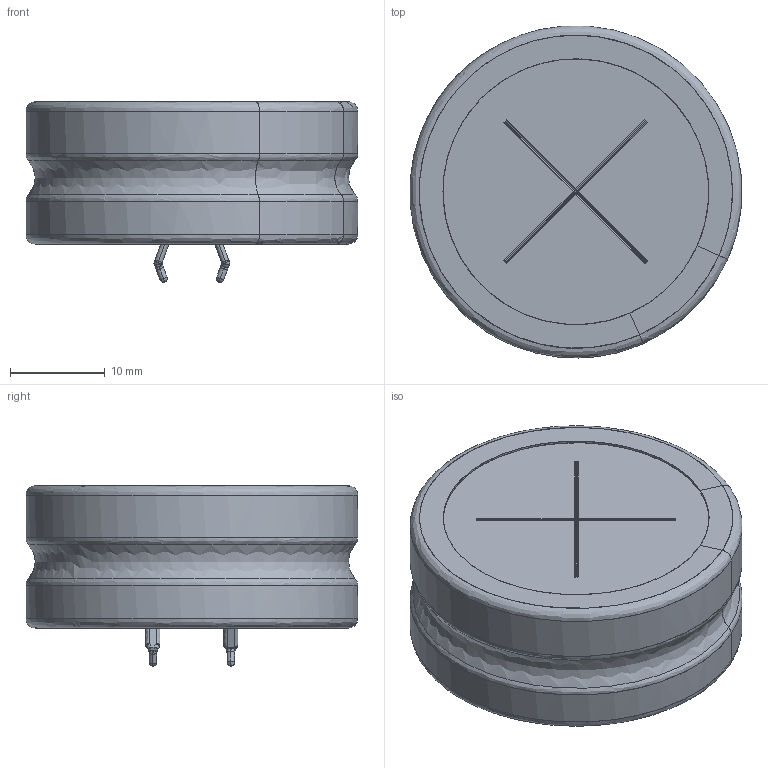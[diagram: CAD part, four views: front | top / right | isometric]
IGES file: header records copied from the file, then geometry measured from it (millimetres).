
Start section: JAMA-IS VERSION  1.0
Bounding box: 34.96 x 34.96 x 19.02 mm (x, y, z)
Surface area: 8147.8 mm2 (no closed solid volume)
Topology: 0 solids, 0 shells, 208 faces, 2354 edges, 2318 vertices
Faces by surface type: bspline 208
